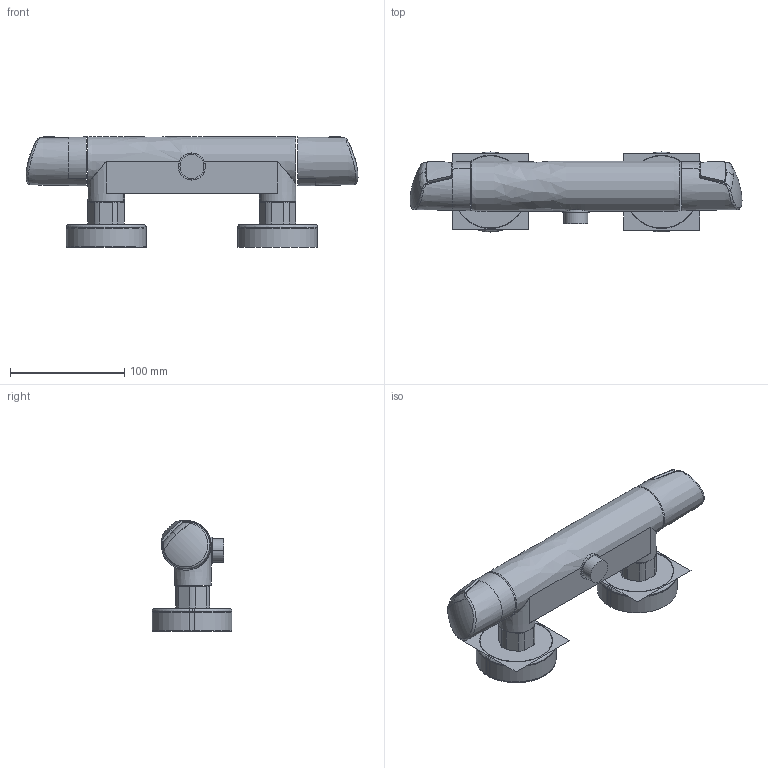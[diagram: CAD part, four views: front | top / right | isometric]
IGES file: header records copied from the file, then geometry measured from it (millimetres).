
Start section:  PTC IGES file: 57404_web.igs
Global section: file name: 57404_web.igs; native system: Creo Parametric by PTC Inc.; preprocessor: 2017380; author: jaj; organization: Unknown; date: 20181005.143933; units: millimetre
Bounding box: 290.61 x 70 x 97.12 mm (x, y, z)
Surface area: 105939.7 mm2 (no closed solid volume)
Topology: 0 solids, 0 shells, 102 faces, 676 edges, 771 vertices
Faces by surface type: revolution 49, bspline 45, extrusion 8
